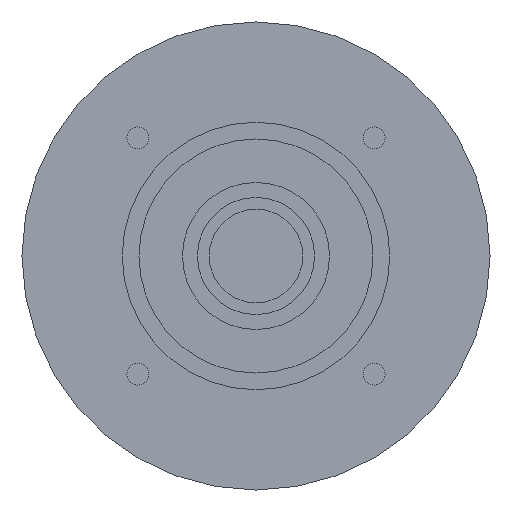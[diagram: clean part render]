
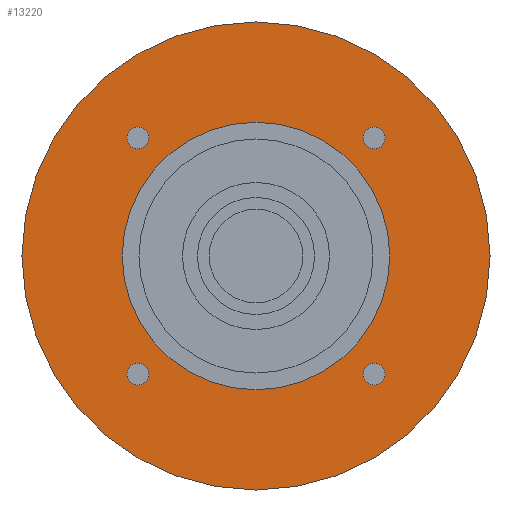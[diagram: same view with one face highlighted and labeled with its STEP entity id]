
A CAD part, left-side view. The second image highlights one B-rep face of the part: STEP entity #13220.
In plain terms, the highlighted planar face has unit normal (-1, 0, 0) as drawn and (0, 0, -1) by its records, which use the part's own axes.
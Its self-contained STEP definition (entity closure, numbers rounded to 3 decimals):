
#12100=CARTESIAN_POINT('',(32.105,-35.355,-84.701));
#12110=VERTEX_POINT('',#12100);
#12140=CARTESIAN_POINT('',(35.355,-35.355,-84.701));
#12150=DIRECTION('',(0.,0.,-1.));
#12160=DIRECTION('',(1.,0.,0.));
#12170=AXIS2_PLACEMENT_3D('',#12140,#12150,#12160);
#12180=CIRCLE('',#12170,3.25);
#12190=CARTESIAN_POINT('',(38.605,-35.355,-84.701));
#12200=VERTEX_POINT('',#12190);
#12210=EDGE_CURVE('',#12200,#12110,#12180,.T.);
#12330=CARTESIAN_POINT('',(0.,0.,
-84.701));
#12340=DIRECTION('',(0.,0.,-1.));
#12350=DIRECTION('',(1.,0.,0.));
#12360=AXIS2_PLACEMENT_3D('',#12330,#12340,#12350);
#12370=PLANE('',#12360);
#12380=ORIENTED_EDGE('',*,*,#12210,.F.);
#12390=EDGE_CURVE('',#12110,#12200,#12180,.T.);
#12400=ORIENTED_EDGE('',*,*,#12390,.F.);
#12410=EDGE_LOOP('',(#12400,#12380));
#12420=FACE_BOUND('',#12410,.T.);
#12430=CARTESIAN_POINT('',(35.355,35.355,-84.701));
#12440=DIRECTION('',(0.,0.,-1.));
#12450=DIRECTION('',(0.,1.,0.));
#12460=AXIS2_PLACEMENT_3D('',#12430,#12440,#12450);
#12470=CIRCLE('',#12460,3.25);
#12480=CARTESIAN_POINT('',(35.355,38.605,-84.701));
#12490=VERTEX_POINT('',#12480);
#12500=CARTESIAN_POINT('',(35.355,32.105,-84.701));
#12510=VERTEX_POINT('',#12500);
#12520=EDGE_CURVE('',#12490,#12510,#12470,.T.);
#12530=ORIENTED_EDGE('',*,*,#12520,.F.);
#12540=EDGE_CURVE('',#12510,#12490,#12470,.T.);
#12550=ORIENTED_EDGE('',*,*,#12540,.F.);
#12560=EDGE_LOOP('',(#12550,#12530));
#12570=FACE_BOUND('',#12560,.T.);
#12580=CARTESIAN_POINT('',(-35.355,35.355,-84.701));
#12590=DIRECTION('',(0.,0.,-1.));
#12600=DIRECTION('',(-1.,0.,0.));
#12610=AXIS2_PLACEMENT_3D('',#12580,#12590,#12600);
#12620=CIRCLE('',#12610,3.25);
#12630=CARTESIAN_POINT('',(-38.605,35.355,-84.701));
#12640=VERTEX_POINT('',#12630);
#12650=CARTESIAN_POINT('',(-32.105,35.355,-84.701));
#12660=VERTEX_POINT('',#12650);
#12670=EDGE_CURVE('',#12640,#12660,#12620,.T.);
#12680=ORIENTED_EDGE('',*,*,#12670,.F.);
#12690=EDGE_CURVE('',#12660,#12640,#12620,.T.);
#12700=ORIENTED_EDGE('',*,*,#12690,.F.);
#12710=EDGE_LOOP('',(#12700,#12680));
#12720=FACE_BOUND('',#12710,.T.);
#12730=CARTESIAN_POINT('',(-35.355,-35.355,-84.701))
;
#12740=DIRECTION('',(0.,0.,-1.));
#12750=DIRECTION('',(0.,-1.,0.));
#12760=AXIS2_PLACEMENT_3D('',#12730,#12740,#12750);
#12770=CIRCLE('',#12760,3.25);
#12780=CARTESIAN_POINT('',(-35.355,-38.605,-84.701))
;
#12790=VERTEX_POINT('',#12780);
#12800=CARTESIAN_POINT('',(-35.355,-32.105,-84.701))
;
#12810=VERTEX_POINT('',#12800);
#12820=EDGE_CURVE('',#12790,#12810,#12770,.T.);
#12830=ORIENTED_EDGE('',*,*,#12820,.F.);
#12840=EDGE_CURVE('',#12810,#12790,#12770,.T.);
#12850=ORIENTED_EDGE('',*,*,#12840,.F.);
#12860=EDGE_LOOP('',(#12850,#12830));
#12870=FACE_BOUND('',#12860,.T.);
#12880=CARTESIAN_POINT('',(0.,0.,
-84.701));
#12890=DIRECTION('',(0.,0.,1.));
#12900=DIRECTION('',(0.,1.,0.));
#12910=AXIS2_PLACEMENT_3D('',#12880,#12890,#12900);
#12920=CIRCLE('',#12910,40.);
#12930=CARTESIAN_POINT('',(-40.,0.,-84.701));
#12940=VERTEX_POINT('',#12930);
#12950=CARTESIAN_POINT('',(40.,0.,-84.701));
#12960=VERTEX_POINT('',#12950);
#12970=EDGE_CURVE('',#12940,#12960,#12920,.T.);
#12980=ORIENTED_EDGE('',*,*,#12970,.T.);
#12990=CARTESIAN_POINT('',(0.,40.,-84.701));
#13000=VERTEX_POINT('',#12990);
#13010=EDGE_CURVE('',#13000,#12940,#12920,.T.);
#13020=ORIENTED_EDGE('',*,*,#13010,.T.);
#13030=EDGE_CURVE('',#12960,#13000,#12920,.T.);
#13040=ORIENTED_EDGE('',*,*,#13030,.T.);
#13050=EDGE_LOOP('',(#13040,#13020,#12980));
#13060=FACE_BOUND('',#13050,.T.);
#13070=CARTESIAN_POINT('',(0.,0.,
-84.701));
#13080=DIRECTION('',(0.,0.,-1.));
#13090=DIRECTION('',(-1.,0.,0.));
#13100=AXIS2_PLACEMENT_3D('',#13070,#13080,#13090);
#13110=CIRCLE('',#13100,70.);
#13120=CARTESIAN_POINT('',(-70.,0.,-84.701));
#13130=VERTEX_POINT('',#13120);
#13140=CARTESIAN_POINT('',(70.,0.,-84.701));
#13150=VERTEX_POINT('',#13140);
#13160=EDGE_CURVE('',#13130,#13150,#13110,.T.);
#13170=ORIENTED_EDGE('',*,*,#13160,.T.);
#13180=EDGE_CURVE('',#13150,#13130,#13110,.T.);
#13190=ORIENTED_EDGE('',*,*,#13180,.T.);
#13200=EDGE_LOOP('',(#13190,#13170));
#13210=FACE_OUTER_BOUND('',#13200,.T.);
#13220=ADVANCED_FACE('',(#12420,#12570,#12720,#12870,#13060,#13210),
#12370,.T.);
